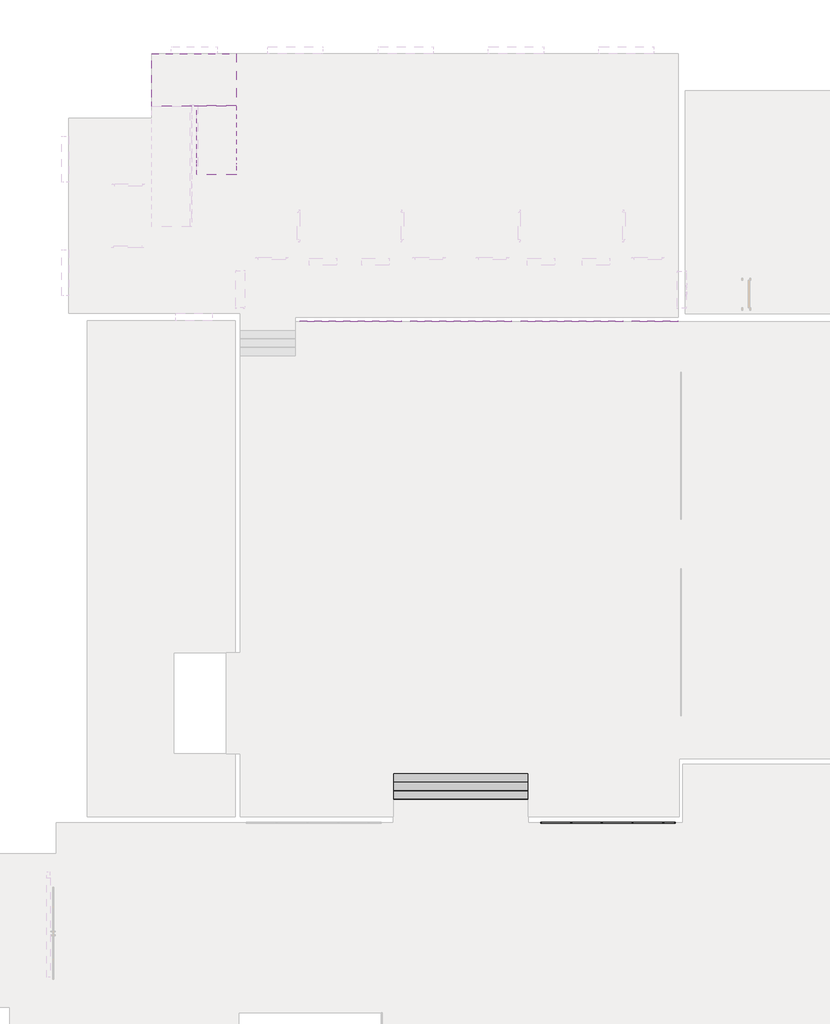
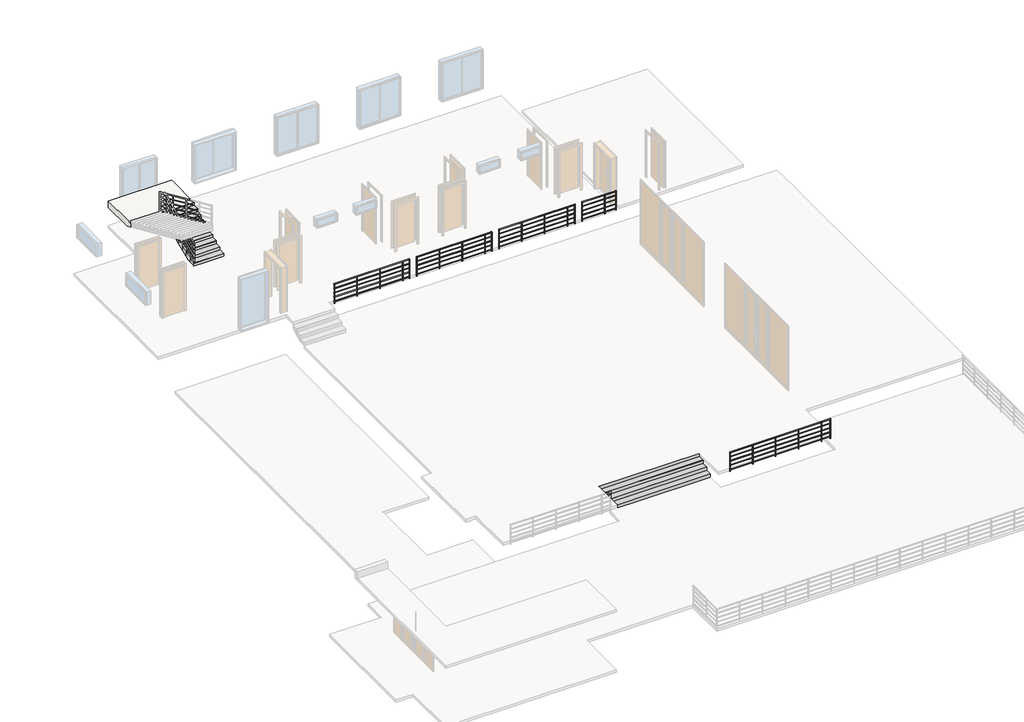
# One storey, part 5 of 5: 5 railings, 2 stair flights, 1 slab.
"""IFC4 building model written with IfcOpenShell, lengths in millimetres."""

from ifc_helpers import new_model, si_unit, point, frame, frame_2d, origin, origin_with_axes, place, context, project, spatial, polyline, circle_curve, trimmed, segment, composite_curve, outline, extrude, faceted_brep, element, save

model = new_model("IFC4")

# Units and contexts
model_context = context("Model", 3, world=origin())
ifc_project = project(units=[si_unit("LENGTHUNIT", "METRE", prefix="MILLI")], contexts=[model_context])

# Site, building, storey
site = spatial("IfcSite", under=ifc_project)
building = spatial("IfcBuilding", under=site)
storey = spatial("IfcBuildingStorey", under=building, Name="标高 1", Elevation=0.0)

# Railings
placement = place(None, origin())
element("IfcRailing", 1, ObjectType="900mm 圆管", at=placement, inside=storey, context=model_context, shape_type="SweptSolid", body=[
    extrude(outline(composite_curve([segment(trimmed(circle_curve(frame_2d((16909.1658649, 2080.0)), 20.0), [point((16889.1658649, 2080.0))], [point((16929.1658649, 2080.0))], False, "CARTESIAN"), True, "CONTINUOUS"), segment(trimmed(circle_curve(frame_2d((16909.1658649, 2080.0)), 20.0), [point((16929.1658649, 2080.0))], [point((16889.1658649, 2080.0))], False, "CARTESIAN"), True, "CONTINUOUS")], self_intersect=False)), frame((-913.2622628, 0.0, 0.0), z_axis=(1.0, 0.0, 0.0), x_axis=(0.0, 1.0, 0.0)), (0.0, 0.0, 1.0), 3300.0),
    extrude(outline(composite_curve([segment(trimmed(circle_curve(frame_2d((16909.1658649, 1885.0)), 15.0), [point((16924.1658649, 1885.0))], [point((16894.1658649, 1885.0))], False, "CARTESIAN"), True, "CONTINUOUS"), segment(trimmed(circle_curve(frame_2d((16909.1658649, 1885.0)), 15.0), [point((16894.1658649, 1885.0))], [point((16924.1658649, 1885.0))], False, "CARTESIAN"), True, "CONTINUOUS")], self_intersect=False)), frame((-913.2622628, 0.0, 0.0), z_axis=(1.0, 0.0, 0.0), x_axis=(0.0, 1.0, 0.0)), (0.0, 0.0, 1.0), 3300.0),
    extrude(outline(composite_curve([segment(trimmed(circle_curve(frame_2d((16909.1658649, 1685.0)), 15.0), [point((16924.1658649, 1685.0))], [point((16894.1658649, 1685.0))], False, "CARTESIAN"), True, "CONTINUOUS"), segment(trimmed(circle_curve(frame_2d((16909.1658649, 1685.0)), 15.0), [point((16894.1658649, 1685.0))], [point((16924.1658649, 1685.0))], False, "CARTESIAN"), True, "CONTINUOUS")], self_intersect=False)), frame((-913.2622628, 0.0, 0.0), z_axis=(1.0, 0.0, 0.0), x_axis=(0.0, 1.0, 0.0)), (0.0, 0.0, 1.0), 3300.0),
    extrude(outline(composite_curve([segment(trimmed(circle_curve(frame_2d((16909.1658649, 1485.0)), 15.0), [point((16924.1658649, 1485.0))], [point((16894.1658649, 1485.0))], False, "CARTESIAN"), True, "CONTINUOUS"), segment(trimmed(circle_curve(frame_2d((16909.1658649, 1485.0)), 15.0), [point((16894.1658649, 1485.0))], [point((16924.1658649, 1485.0))], False, "CARTESIAN"), True, "CONTINUOUS")], self_intersect=False)), frame((-913.2622628, 0.0, 0.0), z_axis=(1.0, 0.0, 0.0), x_axis=(0.0, 1.0, 0.0)), (0.0, 0.0, 1.0), 3300.0),
    extrude(outline(composite_curve([segment(trimmed(circle_curve(frame_2d((16909.1658649, 1285.0)), 15.0), [point((16924.1658649, 1285.0))], [point((16894.1658649, 1285.0))], False, "CARTESIAN"), True, "CONTINUOUS"), segment(trimmed(circle_curve(frame_2d((16909.1658649, 1285.0)), 15.0), [point((16894.1658649, 1285.0))], [point((16924.1658649, 1285.0))], False, "CARTESIAN"), True, "CONTINUOUS")], self_intersect=False)), frame((-913.2622628, 0.0, 0.0), z_axis=(1.0, 0.0, 0.0), x_axis=(0.0, 1.0, 0.0)), (0.0, 0.0, 1.0), 3300.0),
    extrude(outline(composite_curve([segment(trimmed(circle_curve(frame_2d((2086.7377372, 16909.1658649)), 12.5), [point((2086.7377372, 16921.6658649))], [point((2086.7377372, 16896.6658649))], False, "CARTESIAN"), True, "CONTINUOUS"), segment(trimmed(circle_curve(frame_2d((2086.7377372, 16909.1658649)), 12.5), [point((2086.7377372, 16896.6658649))], [point((2086.7377372, 16921.6658649))], False, "CARTESIAN"), True, "CONTINUOUS")], self_intersect=False)), frame((0.0, 0.0, 1200.0), z_axis=(0.0, 0.0, 1.0), x_axis=(1.0, 0.0, 0.0)), (0.0, 0.0, 1.0), 860.0),
    extrude(outline(composite_curve([segment(trimmed(circle_curve(frame_2d((1086.7377372, 16909.1658649)), 12.5), [point((1086.7377372, 16921.6658649))], [point((1086.7377372, 16896.6658649))], False, "CARTESIAN"), True, "CONTINUOUS"), segment(trimmed(circle_curve(frame_2d((1086.7377372, 16909.1658649)), 12.5), [point((1086.7377372, 16896.6658649))], [point((1086.7377372, 16921.6658649))], False, "CARTESIAN"), True, "CONTINUOUS")], self_intersect=False)), frame((0.0, 0.0, 1200.0), z_axis=(0.0, 0.0, 1.0), x_axis=(1.0, 0.0, 0.0)), (0.0, 0.0, 1.0), 860.0),
    extrude(outline(composite_curve([segment(trimmed(circle_curve(frame_2d((86.7377372, 16909.1658649)), 12.5), [point((86.7377372, 16921.6658649))], [point((86.7377372, 16896.6658649))], False, "CARTESIAN"), True, "CONTINUOUS"), segment(trimmed(circle_curve(frame_2d((86.7377372, 16909.1658649)), 12.5), [point((86.7377372, 16896.6658649))], [point((86.7377372, 16921.6658649))], False, "CARTESIAN"), True, "CONTINUOUS")], self_intersect=False)), frame((0.0, 0.0, 1200.0), z_axis=(0.0, 0.0, 1.0), x_axis=(1.0, 0.0, 0.0)), (0.0, 0.0, 1.0), 860.0),
    extrude(outline(composite_curve([segment(trimmed(circle_curve(frame_2d((2374.2377372, 16909.1658649)), 12.5), [point((2374.2377372, 16921.6658649))], [point((2374.2377372, 16896.6658649))], False, "CARTESIAN"), True, "CONTINUOUS"), segment(trimmed(circle_curve(frame_2d((2374.2377372, 16909.1658649)), 12.5), [point((2374.2377372, 16896.6658649))], [point((2374.2377372, 16921.6658649))], False, "CARTESIAN"), True, "CONTINUOUS")], self_intersect=False)), frame((0.0, 0.0, 1200.0), z_axis=(0.0, 0.0, 1.0), x_axis=(1.0, 0.0, 0.0)), (0.0, 0.0, 1.0), 860.0),
    extrude(outline(composite_curve([segment(trimmed(circle_curve(frame_2d((-900.7622628, 16909.1658649)), 12.5), [point((-900.7622628, 16921.6658649))], [point((-900.7622628, 16896.6658649))], False, "CARTESIAN"), True, "CONTINUOUS"), segment(trimmed(circle_curve(frame_2d((-900.7622628, 16909.1658649)), 12.5), [point((-900.7622628, 16896.6658649))], [point((-900.7622628, 16921.6658649))], False, "CARTESIAN"), True, "CONTINUOUS")], self_intersect=False)), frame((0.0, 0.0, 1200.0), z_axis=(0.0, 0.0, 1.0), x_axis=(1.0, 0.0, 0.0)), (0.0, 0.0, 1.0), 860.0),
])
element("IfcRailing", 2, ObjectType="900mm 圆管", at=placement, inside=storey, context=model_context, shape_type="SweptSolid", body=[
    extrude(outline(composite_curve([segment(trimmed(circle_curve(frame_2d((16909.1658649, 2080.0)), 20.0), [point((16889.1658649, 2080.0))], [point((16929.1658649, 2080.0))], False, "CARTESIAN"), True, "CONTINUOUS"), segment(trimmed(circle_curve(frame_2d((16909.1658649, 2080.0)), 20.0), [point((16929.1658649, 2080.0))], [point((16889.1658649, 2080.0))], False, "CARTESIAN"), True, "CONTINUOUS")], self_intersect=False)), frame((2686.7377372, 0.0, 0.0), z_axis=(1.0, 0.0, 0.0), x_axis=(0.0, 1.0, 0.0)), (0.0, 0.0, 1.0), 3300.0),
    extrude(outline(composite_curve([segment(trimmed(circle_curve(frame_2d((16909.1658649, 1885.0)), 15.0), [point((16924.1658649, 1885.0))], [point((16894.1658649, 1885.0))], False, "CARTESIAN"), True, "CONTINUOUS"), segment(trimmed(circle_curve(frame_2d((16909.1658649, 1885.0)), 15.0), [point((16894.1658649, 1885.0))], [point((16924.1658649, 1885.0))], False, "CARTESIAN"), True, "CONTINUOUS")], self_intersect=False)), frame((2686.7377372, 0.0, 0.0), z_axis=(1.0, 0.0, 0.0), x_axis=(0.0, 1.0, 0.0)), (0.0, 0.0, 1.0), 3300.0),
    extrude(outline(composite_curve([segment(trimmed(circle_curve(frame_2d((16909.1658649, 1685.0)), 15.0), [point((16924.1658649, 1685.0))], [point((16894.1658649, 1685.0))], False, "CARTESIAN"), True, "CONTINUOUS"), segment(trimmed(circle_curve(frame_2d((16909.1658649, 1685.0)), 15.0), [point((16894.1658649, 1685.0))], [point((16924.1658649, 1685.0))], False, "CARTESIAN"), True, "CONTINUOUS")], self_intersect=False)), frame((2686.7377372, 0.0, 0.0), z_axis=(1.0, 0.0, 0.0), x_axis=(0.0, 1.0, 0.0)), (0.0, 0.0, 1.0), 3300.0),
    extrude(outline(composite_curve([segment(trimmed(circle_curve(frame_2d((16909.1658649, 1485.0)), 15.0), [point((16924.1658649, 1485.0))], [point((16894.1658649, 1485.0))], False, "CARTESIAN"), True, "CONTINUOUS"), segment(trimmed(circle_curve(frame_2d((16909.1658649, 1485.0)), 15.0), [point((16894.1658649, 1485.0))], [point((16924.1658649, 1485.0))], False, "CARTESIAN"), True, "CONTINUOUS")], self_intersect=False)), frame((2686.7377372, 0.0, 0.0), z_axis=(1.0, 0.0, 0.0), x_axis=(0.0, 1.0, 0.0)), (0.0, 0.0, 1.0), 3300.0),
    extrude(outline(composite_curve([segment(trimmed(circle_curve(frame_2d((16909.1658649, 1285.0)), 15.0), [point((16924.1658649, 1285.0))], [point((16894.1658649, 1285.0))], False, "CARTESIAN"), True, "CONTINUOUS"), segment(trimmed(circle_curve(frame_2d((16909.1658649, 1285.0)), 15.0), [point((16894.1658649, 1285.0))], [point((16924.1658649, 1285.0))], False, "CARTESIAN"), True, "CONTINUOUS")], self_intersect=False)), frame((2686.7377372, 0.0, 0.0), z_axis=(1.0, 0.0, 0.0), x_axis=(0.0, 1.0, 0.0)), (0.0, 0.0, 1.0), 3300.0),
    extrude(outline(composite_curve([segment(trimmed(circle_curve(frame_2d((5686.7377372, 16909.1658649)), 12.5), [point((5686.7377372, 16921.6658649))], [point((5686.7377372, 16896.6658649))], False, "CARTESIAN"), True, "CONTINUOUS"), segment(trimmed(circle_curve(frame_2d((5686.7377372, 16909.1658649)), 12.5), [point((5686.7377372, 16896.6658649))], [point((5686.7377372, 16921.6658649))], False, "CARTESIAN"), True, "CONTINUOUS")], self_intersect=False)), frame((0.0, 0.0, 1200.0), z_axis=(0.0, 0.0, 1.0), x_axis=(1.0, 0.0, 0.0)), (0.0, 0.0, 1.0), 860.0),
    extrude(outline(composite_curve([segment(trimmed(circle_curve(frame_2d((4686.7377372, 16909.1658649)), 12.5), [point((4686.7377372, 16921.6658649))], [point((4686.7377372, 16896.6658649))], False, "CARTESIAN"), True, "CONTINUOUS"), segment(trimmed(circle_curve(frame_2d((4686.7377372, 16909.1658649)), 12.5), [point((4686.7377372, 16896.6658649))], [point((4686.7377372, 16921.6658649))], False, "CARTESIAN"), True, "CONTINUOUS")], self_intersect=False)), frame((0.0, 0.0, 1200.0), z_axis=(0.0, 0.0, 1.0), x_axis=(1.0, 0.0, 0.0)), (0.0, 0.0, 1.0), 860.0),
    extrude(outline(composite_curve([segment(trimmed(circle_curve(frame_2d((3686.7377372, 16909.1658649)), 12.5), [point((3686.7377372, 16921.6658649))], [point((3686.7377372, 16896.6658649))], False, "CARTESIAN"), True, "CONTINUOUS"), segment(trimmed(circle_curve(frame_2d((3686.7377372, 16909.1658649)), 12.5), [point((3686.7377372, 16896.6658649))], [point((3686.7377372, 16921.6658649))], False, "CARTESIAN"), True, "CONTINUOUS")], self_intersect=False)), frame((0.0, 0.0, 1200.0), z_axis=(0.0, 0.0, 1.0), x_axis=(1.0, 0.0, 0.0)), (0.0, 0.0, 1.0), 860.0),
    extrude(outline(composite_curve([segment(trimmed(circle_curve(frame_2d((5974.2377372, 16909.1658649)), 12.5), [point((5974.2377372, 16921.6658649))], [point((5974.2377372, 16896.6658649))], False, "CARTESIAN"), True, "CONTINUOUS"), segment(trimmed(circle_curve(frame_2d((5974.2377372, 16909.1658649)), 12.5), [point((5974.2377372, 16896.6658649))], [point((5974.2377372, 16921.6658649))], False, "CARTESIAN"), True, "CONTINUOUS")], self_intersect=False)), frame((0.0, 0.0, 1200.0), z_axis=(0.0, 0.0, 1.0), x_axis=(1.0, 0.0, 0.0)), (0.0, 0.0, 1.0), 860.0),
    extrude(outline(composite_curve([segment(trimmed(circle_curve(frame_2d((2699.2377372, 16909.1658649)), 12.5), [point((2699.2377372, 16921.6658649))], [point((2699.2377372, 16896.6658649))], False, "CARTESIAN"), True, "CONTINUOUS"), segment(trimmed(circle_curve(frame_2d((2699.2377372, 16909.1658649)), 12.5), [point((2699.2377372, 16896.6658649))], [point((2699.2377372, 16921.6658649))], False, "CARTESIAN"), True, "CONTINUOUS")], self_intersect=False)), frame((0.0, 0.0, 1200.0), z_axis=(0.0, 0.0, 1.0), x_axis=(1.0, 0.0, 0.0)), (0.0, 0.0, 1.0), 860.0),
])
element("IfcRailing", 3, ObjectType="900mm 圆管", at=placement, inside=storey, context=model_context, shape_type="SweptSolid", body=[
    extrude(outline(composite_curve([segment(trimmed(circle_curve(frame_2d((16909.1658649, 2080.0)), 20.0), [point((16889.1658649, 2080.0))], [point((16929.1658649, 2080.0))], False, "CARTESIAN"), True, "CONTINUOUS"), segment(trimmed(circle_curve(frame_2d((16909.1658649, 2080.0)), 20.0), [point((16929.1658649, 2080.0))], [point((16889.1658649, 2080.0))], False, "CARTESIAN"), True, "CONTINUOUS")], self_intersect=False)), frame((6286.7377372, 0.0, 0.0), z_axis=(1.0, 0.0, 0.0), x_axis=(0.0, 1.0, 0.0)), (0.0, 0.0, 1.0), 3330.0),
    extrude(outline(composite_curve([segment(trimmed(circle_curve(frame_2d((16909.1658649, 1885.0)), 15.0), [point((16924.1658649, 1885.0))], [point((16894.1658649, 1885.0))], False, "CARTESIAN"), True, "CONTINUOUS"), segment(trimmed(circle_curve(frame_2d((16909.1658649, 1885.0)), 15.0), [point((16894.1658649, 1885.0))], [point((16924.1658649, 1885.0))], False, "CARTESIAN"), True, "CONTINUOUS")], self_intersect=False)), frame((6286.7377372, 0.0, 0.0), z_axis=(1.0, 0.0, 0.0), x_axis=(0.0, 1.0, 0.0)), (0.0, 0.0, 1.0), 3330.0),
    extrude(outline(composite_curve([segment(trimmed(circle_curve(frame_2d((16909.1658649, 1685.0)), 15.0), [point((16924.1658649, 1685.0))], [point((16894.1658649, 1685.0))], False, "CARTESIAN"), True, "CONTINUOUS"), segment(trimmed(circle_curve(frame_2d((16909.1658649, 1685.0)), 15.0), [point((16894.1658649, 1685.0))], [point((16924.1658649, 1685.0))], False, "CARTESIAN"), True, "CONTINUOUS")], self_intersect=False)), frame((6286.7377372, 0.0, 0.0), z_axis=(1.0, 0.0, 0.0), x_axis=(0.0, 1.0, 0.0)), (0.0, 0.0, 1.0), 3330.0),
    extrude(outline(composite_curve([segment(trimmed(circle_curve(frame_2d((16909.1658649, 1485.0)), 15.0), [point((16924.1658649, 1485.0))], [point((16894.1658649, 1485.0))], False, "CARTESIAN"), True, "CONTINUOUS"), segment(trimmed(circle_curve(frame_2d((16909.1658649, 1485.0)), 15.0), [point((16894.1658649, 1485.0))], [point((16924.1658649, 1485.0))], False, "CARTESIAN"), True, "CONTINUOUS")], self_intersect=False)), frame((6286.7377372, 0.0, 0.0), z_axis=(1.0, 0.0, 0.0), x_axis=(0.0, 1.0, 0.0)), (0.0, 0.0, 1.0), 3330.0),
    extrude(outline(composite_curve([segment(trimmed(circle_curve(frame_2d((16909.1658649, 1285.0)), 15.0), [point((16924.1658649, 1285.0))], [point((16894.1658649, 1285.0))], False, "CARTESIAN"), True, "CONTINUOUS"), segment(trimmed(circle_curve(frame_2d((16909.1658649, 1285.0)), 15.0), [point((16894.1658649, 1285.0))], [point((16924.1658649, 1285.0))], False, "CARTESIAN"), True, "CONTINUOUS")], self_intersect=False)), frame((6286.7377372, 0.0, 0.0), z_axis=(1.0, 0.0, 0.0), x_axis=(0.0, 1.0, 0.0)), (0.0, 0.0, 1.0), 3330.0),
    extrude(outline(composite_curve([segment(trimmed(circle_curve(frame_2d((9286.7377372, 16909.1658649)), 12.5), [point((9286.7377372, 16921.6658649))], [point((9286.7377372, 16896.6658649))], False, "CARTESIAN"), True, "CONTINUOUS"), segment(trimmed(circle_curve(frame_2d((9286.7377372, 16909.1658649)), 12.5), [point((9286.7377372, 16896.6658649))], [point((9286.7377372, 16921.6658649))], False, "CARTESIAN"), True, "CONTINUOUS")], self_intersect=False)), frame((0.0, 0.0, 1200.0), z_axis=(0.0, 0.0, 1.0), x_axis=(1.0, 0.0, 0.0)), (0.0, 0.0, 1.0), 860.0),
    extrude(outline(composite_curve([segment(trimmed(circle_curve(frame_2d((8286.7377372, 16909.1658649)), 12.5), [point((8286.7377372, 16921.6658649))], [point((8286.7377372, 16896.6658649))], False, "CARTESIAN"), True, "CONTINUOUS"), segment(trimmed(circle_curve(frame_2d((8286.7377372, 16909.1658649)), 12.5), [point((8286.7377372, 16896.6658649))], [point((8286.7377372, 16921.6658649))], False, "CARTESIAN"), True, "CONTINUOUS")], self_intersect=False)), frame((0.0, 0.0, 1200.0), z_axis=(0.0, 0.0, 1.0), x_axis=(1.0, 0.0, 0.0)), (0.0, 0.0, 1.0), 860.0),
    extrude(outline(composite_curve([segment(trimmed(circle_curve(frame_2d((7286.7377372, 16909.1658649)), 12.5), [point((7286.7377372, 16921.6658649))], [point((7286.7377372, 16896.6658649))], False, "CARTESIAN"), True, "CONTINUOUS"), segment(trimmed(circle_curve(frame_2d((7286.7377372, 16909.1658649)), 12.5), [point((7286.7377372, 16896.6658649))], [point((7286.7377372, 16921.6658649))], False, "CARTESIAN"), True, "CONTINUOUS")], self_intersect=False)), frame((0.0, 0.0, 1200.0), z_axis=(0.0, 0.0, 1.0), x_axis=(1.0, 0.0, 0.0)), (0.0, 0.0, 1.0), 860.0),
    extrude(outline(composite_curve([segment(trimmed(circle_curve(frame_2d((9604.2377372, 16909.1658649)), 12.5), [point((9604.2377372, 16921.6658649))], [point((9604.2377372, 16896.6658649))], False, "CARTESIAN"), True, "CONTINUOUS"), segment(trimmed(circle_curve(frame_2d((9604.2377372, 16909.1658649)), 12.5), [point((9604.2377372, 16896.6658649))], [point((9604.2377372, 16921.6658649))], False, "CARTESIAN"), True, "CONTINUOUS")], self_intersect=False)), frame((0.0, 0.0, 1200.0), z_axis=(0.0, 0.0, 1.0), x_axis=(1.0, 0.0, 0.0)), (0.0, 0.0, 1.0), 860.0),
    extrude(outline(composite_curve([segment(trimmed(circle_curve(frame_2d((6299.2377372, 16909.1658649)), 12.5), [point((6299.2377372, 16921.6658649))], [point((6299.2377372, 16896.6658649))], False, "CARTESIAN"), True, "CONTINUOUS"), segment(trimmed(circle_curve(frame_2d((6299.2377372, 16909.1658649)), 12.5), [point((6299.2377372, 16896.6658649))], [point((6299.2377372, 16921.6658649))], False, "CARTESIAN"), True, "CONTINUOUS")], self_intersect=False)), frame((0.0, 0.0, 1200.0), z_axis=(0.0, 0.0, 1.0), x_axis=(1.0, 0.0, 0.0)), (0.0, 0.0, 1.0), 860.0),
])
element("IfcRailing", 4, ObjectType="900mm 圆管", at=placement, inside=storey, context=model_context, shape_type="SweptSolid", body=[
    extrude(outline(composite_curve([segment(trimmed(circle_curve(frame_2d((16909.1658649, 2080.0)), 20.0), [point((16889.1658649, 2080.0))], [point((16929.1658649, 2080.0))], False, "CARTESIAN"), True, "CONTINUOUS"), segment(trimmed(circle_curve(frame_2d((16909.1658649, 2080.0)), 20.0), [point((16929.1658649, 2080.0))], [point((16889.1658649, 2080.0))], False, "CARTESIAN"), True, "CONTINUOUS")], self_intersect=False)), frame((9916.7377372, 0.0, 0.0), z_axis=(1.0, 0.0, 0.0), x_axis=(0.0, 1.0, 0.0)), (0.0, 0.0, 1.0), 1500.0),
    extrude(outline(composite_curve([segment(trimmed(circle_curve(frame_2d((16909.1658649, 1885.0)), 15.0), [point((16924.1658649, 1885.0))], [point((16894.1658649, 1885.0))], False, "CARTESIAN"), True, "CONTINUOUS"), segment(trimmed(circle_curve(frame_2d((16909.1658649, 1885.0)), 15.0), [point((16894.1658649, 1885.0))], [point((16924.1658649, 1885.0))], False, "CARTESIAN"), True, "CONTINUOUS")], self_intersect=False)), frame((9916.7377372, 0.0, 0.0), z_axis=(1.0, 0.0, 0.0), x_axis=(0.0, 1.0, 0.0)), (0.0, 0.0, 1.0), 1500.0),
    extrude(outline(composite_curve([segment(trimmed(circle_curve(frame_2d((16909.1658649, 1685.0)), 15.0), [point((16924.1658649, 1685.0))], [point((16894.1658649, 1685.0))], False, "CARTESIAN"), True, "CONTINUOUS"), segment(trimmed(circle_curve(frame_2d((16909.1658649, 1685.0)), 15.0), [point((16894.1658649, 1685.0))], [point((16924.1658649, 1685.0))], False, "CARTESIAN"), True, "CONTINUOUS")], self_intersect=False)), frame((9916.7377372, 0.0, 0.0), z_axis=(1.0, 0.0, 0.0), x_axis=(0.0, 1.0, 0.0)), (0.0, 0.0, 1.0), 1500.0),
    extrude(outline(composite_curve([segment(trimmed(circle_curve(frame_2d((16909.1658649, 1485.0)), 15.0), [point((16924.1658649, 1485.0))], [point((16894.1658649, 1485.0))], False, "CARTESIAN"), True, "CONTINUOUS"), segment(trimmed(circle_curve(frame_2d((16909.1658649, 1485.0)), 15.0), [point((16894.1658649, 1485.0))], [point((16924.1658649, 1485.0))], False, "CARTESIAN"), True, "CONTINUOUS")], self_intersect=False)), frame((9916.7377372, 0.0, 0.0), z_axis=(1.0, 0.0, 0.0), x_axis=(0.0, 1.0, 0.0)), (0.0, 0.0, 1.0), 1500.0),
    extrude(outline(composite_curve([segment(trimmed(circle_curve(frame_2d((16909.1658649, 1285.0)), 15.0), [point((16924.1658649, 1285.0))], [point((16894.1658649, 1285.0))], False, "CARTESIAN"), True, "CONTINUOUS"), segment(trimmed(circle_curve(frame_2d((16909.1658649, 1285.0)), 15.0), [point((16894.1658649, 1285.0))], [point((16924.1658649, 1285.0))], False, "CARTESIAN"), True, "CONTINUOUS")], self_intersect=False)), frame((9916.7377372, 0.0, 0.0), z_axis=(1.0, 0.0, 0.0), x_axis=(0.0, 1.0, 0.0)), (0.0, 0.0, 1.0), 1500.0),
    extrude(outline(composite_curve([segment(trimmed(circle_curve(frame_2d((10916.7377372, 16909.1658649)), 12.5), [point((10916.7377372, 16921.6658649))], [point((10916.7377372, 16896.6658649))], False, "CARTESIAN"), True, "CONTINUOUS"), segment(trimmed(circle_curve(frame_2d((10916.7377372, 16909.1658649)), 12.5), [point((10916.7377372, 16896.6658649))], [point((10916.7377372, 16921.6658649))], False, "CARTESIAN"), True, "CONTINUOUS")], self_intersect=False)), frame((0.0, 0.0, 1200.0), z_axis=(0.0, 0.0, 1.0), x_axis=(1.0, 0.0, 0.0)), (0.0, 0.0, 1.0), 860.0),
    extrude(outline(composite_curve([segment(trimmed(circle_curve(frame_2d((11404.2377372, 16909.1658649)), 12.5), [point((11404.2377372, 16921.6658649))], [point((11404.2377372, 16896.6658649))], False, "CARTESIAN"), True, "CONTINUOUS"), segment(trimmed(circle_curve(frame_2d((11404.2377372, 16909.1658649)), 12.5), [point((11404.2377372, 16896.6658649))], [point((11404.2377372, 16921.6658649))], False, "CARTESIAN"), True, "CONTINUOUS")], self_intersect=False)), frame((0.0, 0.0, 1200.0), z_axis=(0.0, 0.0, 1.0), x_axis=(1.0, 0.0, 0.0)), (0.0, 0.0, 1.0), 860.0),
    extrude(outline(composite_curve([segment(trimmed(circle_curve(frame_2d((9929.2377372, 16909.1658649)), 12.5), [point((9929.2377372, 16921.6658649))], [point((9929.2377372, 16896.6658649))], False, "CARTESIAN"), True, "CONTINUOUS"), segment(trimmed(circle_curve(frame_2d((9929.2377372, 16909.1658649)), 12.5), [point((9929.2377372, 16896.6658649))], [point((9929.2377372, 16921.6658649))], False, "CARTESIAN"), True, "CONTINUOUS")], self_intersect=False)), frame((0.0, 0.0, 1200.0), z_axis=(0.0, 0.0, 1.0), x_axis=(1.0, 0.0, 0.0)), (0.0, 0.0, 1.0), 860.0),
])
element("IfcRailing", 5, ObjectType="900mm 圆管", at=placement, inside=storey, context=model_context, shape_type="SweptSolid", body=[
    extrude(outline(composite_curve([segment(trimmed(circle_curve(frame_2d((544.1658649, 1480.0)), 20.0), [point((524.1658649, 1480.0))], [point((564.1658649, 1480.0))], False, "CARTESIAN"), True, "CONTINUOUS"), segment(trimmed(circle_curve(frame_2d((544.1658649, 1480.0)), 20.0), [point((564.1658649, 1480.0))], [point((524.1658649, 1480.0))], False, "CARTESIAN"), True, "CONTINUOUS")], self_intersect=False)), frame((6936.7377372, 0.0, 0.0), z_axis=(1.0, 0.0, 0.0), x_axis=(0.0, 1.0, 0.0)), (0.0, 0.0, 1.0), 4400.0),
    extrude(outline(composite_curve([segment(trimmed(circle_curve(frame_2d((544.1658649, 1285.0)), 15.0), [point((559.1658649, 1285.0))], [point((529.1658649, 1285.0))], False, "CARTESIAN"), True, "CONTINUOUS"), segment(trimmed(circle_curve(frame_2d((544.1658649, 1285.0)), 15.0), [point((529.1658649, 1285.0))], [point((559.1658649, 1285.0))], False, "CARTESIAN"), True, "CONTINUOUS")], self_intersect=False)), frame((6936.7377372, 0.0, 0.0), z_axis=(1.0, 0.0, 0.0), x_axis=(0.0, 1.0, 0.0)), (0.0, 0.0, 1.0), 4400.0),
    extrude(outline(composite_curve([segment(trimmed(circle_curve(frame_2d((544.1658649, 1085.0)), 15.0), [point((559.1658649, 1085.0))], [point((529.1658649, 1085.0))], False, "CARTESIAN"), True, "CONTINUOUS"), segment(trimmed(circle_curve(frame_2d((544.1658649, 1085.0)), 15.0), [point((529.1658649, 1085.0))], [point((559.1658649, 1085.0))], False, "CARTESIAN"), True, "CONTINUOUS")], self_intersect=False)), frame((6936.7377372, 0.0, 0.0), z_axis=(1.0, 0.0, 0.0), x_axis=(0.0, 1.0, 0.0)), (0.0, 0.0, 1.0), 4400.0),
    extrude(outline(composite_curve([segment(trimmed(circle_curve(frame_2d((544.1658649, 885.0)), 15.0), [point((559.1658649, 885.0))], [point((529.1658649, 885.0))], False, "CARTESIAN"), True, "CONTINUOUS"), segment(trimmed(circle_curve(frame_2d((544.1658649, 885.0)), 15.0), [point((529.1658649, 885.0))], [point((559.1658649, 885.0))], False, "CARTESIAN"), True, "CONTINUOUS")], self_intersect=False)), frame((6936.7377372, 0.0, 0.0), z_axis=(1.0, 0.0, 0.0), x_axis=(0.0, 1.0, 0.0)), (0.0, 0.0, 1.0), 4400.0),
    extrude(outline(composite_curve([segment(trimmed(circle_curve(frame_2d((544.1658649, 685.0)), 15.0), [point((559.1658649, 685.0))], [point((529.1658649, 685.0))], False, "CARTESIAN"), True, "CONTINUOUS"), segment(trimmed(circle_curve(frame_2d((544.1658649, 685.0)), 15.0), [point((529.1658649, 685.0))], [point((559.1658649, 685.0))], False, "CARTESIAN"), True, "CONTINUOUS")], self_intersect=False)), frame((6936.7377372, 0.0, 0.0), z_axis=(1.0, 0.0, 0.0), x_axis=(0.0, 1.0, 0.0)), (0.0, 0.0, 1.0), 4400.0),
    extrude(outline(composite_curve([segment(trimmed(circle_curve(frame_2d((10936.7377372, 544.1658649)), 12.5), [point((10936.7377372, 556.6658649))], [point((10936.7377372, 531.6658649))], False, "CARTESIAN"), True, "CONTINUOUS"), segment(trimmed(circle_curve(frame_2d((10936.7377372, 544.1658649)), 12.5), [point((10936.7377372, 531.6658649))], [point((10936.7377372, 556.6658649))], False, "CARTESIAN"), True, "CONTINUOUS")], self_intersect=False)), frame((0.0, 0.0, 600.0), z_axis=(0.0, 0.0, 1.0), x_axis=(1.0, 0.0, 0.0)), (0.0, 0.0, 1.0), 860.0),
    extrude(outline(composite_curve([segment(trimmed(circle_curve(frame_2d((9936.7377372, 544.1658649)), 12.5), [point((9936.7377372, 556.6658649))], [point((9936.7377372, 531.6658649))], False, "CARTESIAN"), True, "CONTINUOUS"), segment(trimmed(circle_curve(frame_2d((9936.7377372, 544.1658649)), 12.5), [point((9936.7377372, 531.6658649))], [point((9936.7377372, 556.6658649))], False, "CARTESIAN"), True, "CONTINUOUS")], self_intersect=False)), frame((0.0, 0.0, 600.0), z_axis=(0.0, 0.0, 1.0), x_axis=(1.0, 0.0, 0.0)), (0.0, 0.0, 1.0), 860.0),
    extrude(outline(composite_curve([segment(trimmed(circle_curve(frame_2d((8936.7377372, 544.1658649)), 12.5), [point((8936.7377372, 556.6658649))], [point((8936.7377372, 531.6658649))], False, "CARTESIAN"), True, "CONTINUOUS"), segment(trimmed(circle_curve(frame_2d((8936.7377372, 544.1658649)), 12.5), [point((8936.7377372, 531.6658649))], [point((8936.7377372, 556.6658649))], False, "CARTESIAN"), True, "CONTINUOUS")], self_intersect=False)), frame((0.0, 0.0, 600.0), z_axis=(0.0, 0.0, 1.0), x_axis=(1.0, 0.0, 0.0)), (0.0, 0.0, 1.0), 860.0),
    extrude(outline(composite_curve([segment(trimmed(circle_curve(frame_2d((7936.7377372, 544.1658649)), 12.5), [point((7936.7377372, 556.6658649))], [point((7936.7377372, 531.6658649))], False, "CARTESIAN"), True, "CONTINUOUS"), segment(trimmed(circle_curve(frame_2d((7936.7377372, 544.1658649)), 12.5), [point((7936.7377372, 531.6658649))], [point((7936.7377372, 556.6658649))], False, "CARTESIAN"), True, "CONTINUOUS")], self_intersect=False)), frame((0.0, 0.0, 600.0), z_axis=(0.0, 0.0, 1.0), x_axis=(1.0, 0.0, 0.0)), (0.0, 0.0, 1.0), 860.0),
    extrude(outline(composite_curve([segment(trimmed(circle_curve(frame_2d((11324.2377372, 544.1658649)), 12.5), [point((11324.2377372, 556.6658649))], [point((11324.2377372, 531.6658649))], False, "CARTESIAN"), True, "CONTINUOUS"), segment(trimmed(circle_curve(frame_2d((11324.2377372, 544.1658649)), 12.5), [point((11324.2377372, 531.6658649))], [point((11324.2377372, 556.6658649))], False, "CARTESIAN"), True, "CONTINUOUS")], self_intersect=False)), frame((0.0, 0.0, 600.0), z_axis=(0.0, 0.0, 1.0), x_axis=(1.0, 0.0, 0.0)), (0.0, 0.0, 1.0), 860.0),
    extrude(outline(composite_curve([segment(trimmed(circle_curve(frame_2d((6949.2377372, 544.1658649)), 12.5), [point((6949.2377372, 556.6658649))], [point((6949.2377372, 531.6658649))], False, "CARTESIAN"), True, "CONTINUOUS"), segment(trimmed(circle_curve(frame_2d((6949.2377372, 544.1658649)), 12.5), [point((6949.2377372, 531.6658649))], [point((6949.2377372, 556.6658649))], False, "CARTESIAN"), True, "CONTINUOUS")], self_intersect=False)), frame((0.0, 0.0, 600.0), z_axis=(0.0, 0.0, 1.0), x_axis=(1.0, 0.0, 0.0)), (0.0, 0.0, 1.0), 860.0),
])

# Slab
element("IfcSlab", 6, ObjectType="300mm 厚度", at=placement, inside=storey, context=model_context, shape_type="Brep", body=[
    faceted_brep([(-4283.2622628, 23924.1658649, 2325.0), (-4283.2622628, 23936.6658649, 2325.0), (-2983.2622628, 23936.6658649, 2325.0), (-2983.2622628, 25629.1658649, 2325.0), (-5743.2622628, 25629.1658649, 2325.0), (-5743.2622628, 24215.7039103, 2325.0), (-5743.2622628, 23924.1658649, 2325.0), (-5743.2622628, 23911.6658649, 2325.0), (-4443.2622628, 23911.6658649, 2325.0), (-4443.2622628, 23924.1658649, 2325.0), (-4283.2622628, 23936.6658649, 2200.0), (-4283.2622628, 23936.6658649, 2025.0), (-2983.2622628, 23936.6658649, 2025.0), (-2983.2622628, 23936.6658649, 2200.0), (-2983.2622628, 25629.1658649, 2025.0), (-5743.2622628, 25629.1658649, 2025.0), (-5743.2622628, 24215.7039103, 2025.0), (-5743.2622628, 23924.1658649, 2155.1509131), (-5743.2622628, 23911.6658649, 2160.7312703), (-4443.2622628, 23911.6658649, 2160.7312703), (-4443.2622628, 23924.1658649, 2155.1509131), (-4443.2622628, 23924.1658649, 2025.0), (-4283.2622628, 23924.1658649, 2025.0), (-4443.2622628, 24215.7039103, 2025.0)], [[[0, 1, 2, 3, 4, 5, 6, 7, 8, 9]], [[2, 1, 10, 11, 12, 13]], [[3, 2, 13, 12, 14]], [[4, 3, 14, 15]], [[4, 15, 16, 17, 6, 5]], [[8, 7, 18, 19]], [[0, 9, 20, 21, 22]], [[21, 23, 16, 15, 14, 12, 11, 22]], [[23, 21, 20]], [[16, 23, 20, 19, 18, 17]], [[1, 0, 22, 11, 10]], [[7, 6, 17, 18]], [[9, 8, 19, 20]]]),
])

# Stair flights
element("IfcStairFlight", 7, ObjectType="150mm 结构深度", at=placement, inside=storey, context=model_context, shape_type="SolidModel", body=[
    faceted_brep([(-4283.2622628, 21976.6658649, 1325.0), (-4283.2622628, 21696.6658649, 1325.0), (-2983.2622628, 21696.6658649, 1325.0), (-2983.2622628, 21976.6658649, 1325.0), (-4283.2622628, 21976.6658649, 1200.0), (-4283.2622628, 21696.6658649, 1200.0), (-2983.2622628, 21696.6658649, 1200.0), (-2983.2622628, 21976.6658649, 1200.0), (-4283.2622628, 22256.6658649, 1450.0), (-4283.2622628, 21976.6658649, 1450.0), (-2983.2622628, 21976.6658649, 1450.0), (-2983.2622628, 22256.6658649, 1450.0), (-4283.2622628, 22256.6658649, 1285.7312703), (-4283.2622628, 22064.6278194, 1200.0), (-2983.2622628, 22064.6278194, 1200.0), (-2983.2622628, 22256.6658649, 1285.7312703), (-4283.2622628, 22536.6658649, 1575.0), (-4283.2622628, 22256.6658649, 1575.0), (-2983.2622628, 22256.6658649, 1575.0), (-2983.2622628, 22536.6658649, 1575.0), (-4283.2622628, 22536.6658649, 1410.7312703), (-2983.2622628, 22536.6658649, 1410.7312703), (-4283.2622628, 22816.6658649, 1700.0), (-4283.2622628, 22536.6658649, 1700.0), (-2983.2622628, 22536.6658649, 1700.0), (-2983.2622628, 22816.6658649, 1700.0), (-4283.2622628, 22816.6658649, 1535.7312703), (-2983.2622628, 22816.6658649, 1535.7312703), (-4283.2622628, 23096.6658649, 1825.0), (-4283.2622628, 22816.6658649, 1825.0), (-2983.2622628, 22816.6658649, 1825.0), (-2983.2622628, 23096.6658649, 1825.0), (-4283.2622628, 23096.6658649, 1660.7312703), (-2983.2622628, 23096.6658649, 1660.7312703), (-4283.2622628, 23376.6658649, 1950.0), (-4283.2622628, 23096.6658649, 1950.0), (-2983.2622628, 23096.6658649, 1950.0), (-2983.2622628, 23376.6658649, 1950.0), (-4283.2622628, 23376.6658649, 1785.7312703), (-2983.2622628, 23376.6658649, 1785.7312703), (-4283.2622628, 23656.6658649, 2075.0), (-4283.2622628, 23376.6658649, 2075.0), (-2983.2622628, 23376.6658649, 2075.0), (-2983.2622628, 23656.6658649, 2075.0), (-4283.2622628, 23656.6658649, 1910.7312703), (-2983.2622628, 23656.6658649, 1910.7312703), (-4283.2622628, 23656.6658649, 2200.0), (-2983.2622628, 23656.6658649, 2200.0), (-2983.2622628, 23912.6278194, 2200.0), (-2983.2622628, 23936.6658649, 2200.0), (-4283.2622628, 23936.6658649, 2200.0), (-4283.2622628, 23924.1658649, 2200.0), (-4283.2622628, 23912.6278194, 2200.0), (-4283.2622628, 23936.6658649, 2025.0), (-4283.2622628, 23924.1658649, 2025.0), (-4283.2622628, 23912.6278194, 2025.0), (-2983.2622628, 23912.6278194, 2025.0), (-2983.2622628, 23936.6658649, 2025.0)], [[[0, 1, 2, 3]], [[1, 0, 4, 5]], [[2, 1, 5, 6]], [[3, 2, 6, 7]], [[8, 9, 10, 11]], [[4, 0, 9, 8, 12, 13]], [[0, 3, 10, 9]], [[3, 7, 14, 15, 11, 10]], [[16, 17, 18, 19]], [[17, 16, 20, 12, 8]], [[8, 11, 18, 17]], [[19, 18, 11, 15, 21]], [[22, 23, 24, 25]], [[23, 22, 26, 20, 16]], [[16, 19, 24, 23]], [[25, 24, 19, 21, 27]], [[28, 29, 30, 31]], [[29, 28, 32, 26, 22]], [[22, 25, 30, 29]], [[31, 30, 25, 27, 33]], [[34, 35, 36, 37]], [[35, 34, 38, 32, 28]], [[28, 31, 36, 35]], [[37, 36, 31, 33, 39]], [[40, 41, 42, 43]], [[41, 40, 44, 38, 34]], [[34, 37, 42, 41]], [[43, 42, 37, 39, 45]], [[46, 47, 48, 49, 50, 51, 52]], [[40, 46, 52, 51, 50, 53, 54, 55, 44]], [[40, 43, 47, 46]], [[47, 43, 45, 56, 57, 49, 48]], [[50, 49, 57, 53]], [[5, 4, 13, 14, 7, 6]], [[55, 56, 45, 39, 33, 27, 21, 15, 14, 13, 12, 20, 26, 32, 38, 44]], [[56, 55, 54, 53, 57]]]),
    extrude(outline(polyline([(-2983.2622628, 21696.6658649), (-2983.2622628, 21684.1658649), (-4283.2622628, 21684.1658649), (-4283.2622628, 21696.6658649), (-2983.2622628, 21696.6658649)])), frame((0.0, 0.0, 1200.0), z_axis=(0.0, 0.0, 1.0), x_axis=(1.0, 0.0, 0.0)), (0.0, 0.0, 1.0), 125.0),
    extrude(outline(polyline([(-2983.2622628, 21976.6658649), (-2983.2622628, 21964.1658649), (-4283.2622628, 21964.1658649), (-4283.2622628, 21976.6658649), (-2983.2622628, 21976.6658649)])), frame((0.0, 0.0, 1325.0), z_axis=(0.0, 0.0, 1.0), x_axis=(1.0, 0.0, 0.0)), (0.0, 0.0, 1.0), 125.0),
    extrude(outline(polyline([(-2983.2622628, 22256.6658649), (-2983.2622628, 22244.1658649), (-4283.2622628, 22244.1658649), (-4283.2622628, 22256.6658649), (-2983.2622628, 22256.6658649)])), frame((0.0, 0.0, 1450.0), z_axis=(0.0, 0.0, 1.0), x_axis=(1.0, 0.0, 0.0)), (0.0, 0.0, 1.0), 125.0),
    extrude(outline(polyline([(-2983.2622628, 22536.6658649), (-2983.2622628, 22524.1658649), (-4283.2622628, 22524.1658649), (-4283.2622628, 22536.6658649), (-2983.2622628, 22536.6658649)])), frame((0.0, 0.0, 1575.0), z_axis=(0.0, 0.0, 1.0), x_axis=(1.0, 0.0, 0.0)), (0.0, 0.0, 1.0), 125.0),
    extrude(outline(polyline([(-2983.2622628, 22816.6658649), (-2983.2622628, 22804.1658649), (-4283.2622628, 22804.1658649), (-4283.2622628, 22816.6658649), (-2983.2622628, 22816.6658649)])), frame((0.0, 0.0, 1700.0), z_axis=(0.0, 0.0, 1.0), x_axis=(1.0, 0.0, 0.0)), (0.0, 0.0, 1.0), 125.0),
    extrude(outline(polyline([(-2983.2622628, 23096.6658649), (-2983.2622628, 23084.1658649), (-4283.2622628, 23084.1658649), (-4283.2622628, 23096.6658649), (-2983.2622628, 23096.6658649)])), frame((0.0, 0.0, 1825.0), z_axis=(0.0, 0.0, 1.0), x_axis=(1.0, 0.0, 0.0)), (0.0, 0.0, 1.0), 125.0),
    extrude(outline(polyline([(-2983.2622628, 23376.6658649), (-2983.2622628, 23364.1658649), (-4283.2622628, 23364.1658649), (-4283.2622628, 23376.6658649), (-2983.2622628, 23376.6658649)])), frame((0.0, 0.0, 1950.0), z_axis=(0.0, 0.0, 1.0), x_axis=(1.0, 0.0, 0.0)), (0.0, 0.0, 1.0), 125.0),
    extrude(outline(polyline([(-2983.2622628, 23656.6658649), (-2983.2622628, 23644.1658649), (-4283.2622628, 23644.1658649), (-4283.2622628, 23656.6658649), (-2983.2622628, 23656.6658649)])), frame((0.0, 0.0, 2075.0), z_axis=(0.0, 0.0, 1.0), x_axis=(1.0, 0.0, 0.0)), (0.0, 0.0, 1.0), 125.0),
    extrude(outline(polyline([(-2983.2622628, 23936.6658649), (-2983.2622628, 23924.1658649), (-4283.2622628, 23924.1658649), (-4283.2622628, 23936.6658649), (-2983.2622628, 23936.6658649)])), frame((0.0, 0.0, 2200.0), z_axis=(0.0, 0.0, 1.0), x_axis=(1.0, 0.0, 0.0)), (0.0, 0.0, 1.0), 125.0),
])
element("IfcStairFlight", 8, ObjectType="150mm 结构深度", at=placement, inside=storey, context=model_context, shape_type="SolidModel", body=[
    faceted_brep([(2136.7377372, 1611.6658649, 150.0), (2136.7377372, 1331.6658649, 150.0), (6536.7377372, 1331.6658649, 150.0), (6536.7377372, 1611.6658649, 150.0), (2136.7377372, 1611.6658649, 0.0), (2136.7377372, 1331.6658649, 0.0), (6536.7377372, 1331.6658649, 0.0), (6536.7377372, 1611.6658649, 0.0), (2136.7377372, 1891.6658649, 300.0), (2136.7377372, 1611.6658649, 300.0), (6536.7377372, 1611.6658649, 300.0), (6536.7377372, 1891.6658649, 300.0), (2136.7377372, 1891.6658649, 129.831641), (2136.7377372, 1649.3134684, 0.0), (6536.7377372, 1649.3134684, 0.0), (6536.7377372, 1891.6658649, 129.831641), (2136.7377372, 2171.6658649, 450.0), (2136.7377372, 1891.6658649, 450.0), (6536.7377372, 1891.6658649, 450.0), (6536.7377372, 2171.6658649, 450.0), (2136.7377372, 2171.6658649, 279.831641), (6536.7377372, 2171.6658649, 279.831641)], [[[0, 1, 2, 3]], [[1, 0, 4, 5]], [[2, 1, 5, 6]], [[3, 2, 6, 7]], [[8, 9, 10, 11]], [[4, 0, 9, 8, 12, 13]], [[0, 3, 10, 9]], [[3, 7, 14, 15, 11, 10]], [[16, 17, 18, 19]], [[17, 16, 20, 12, 8]], [[8, 11, 18, 17]], [[19, 18, 11, 15, 21]], [[16, 19, 21, 20]], [[5, 4, 13, 14, 7, 6]], [[14, 13, 12, 20, 21, 15]]]),
    extrude(outline(polyline([(6536.7377372, 1331.6658649), (6536.7377372, 1319.1658649), (2136.7377372, 1319.1658649), (2136.7377372, 1331.6658649), (6536.7377372, 1331.6658649)])), origin_with_axes(), (0.0, 0.0, 1.0), 150.0),
    extrude(outline(polyline([(6536.7377372, 1611.6658649), (6536.7377372, 1599.1658649), (2136.7377372, 1599.1658649), (2136.7377372, 1611.6658649), (6536.7377372, 1611.6658649)])), frame((0.0, 0.0, 150.0), z_axis=(0.0, 0.0, 1.0), x_axis=(1.0, 0.0, 0.0)), (0.0, 0.0, 1.0), 150.0),
    extrude(outline(polyline([(6536.7377372, 1891.6658649), (6536.7377372, 1879.1658649), (2136.7377372, 1879.1658649), (2136.7377372, 1891.6658649), (6536.7377372, 1891.6658649)])), frame((0.0, 0.0, 300.0), z_axis=(0.0, 0.0, 1.0), x_axis=(1.0, 0.0, 0.0)), (0.0, 0.0, 1.0), 150.0),
    extrude(outline(polyline([(6536.7377372, 2171.6658649), (6536.7377372, 2159.1658649), (2136.7377372, 2159.1658649), (2136.7377372, 2171.6658649), (6536.7377372, 2171.6658649)])), frame((0.0, 0.0, 450.0), z_axis=(0.0, 0.0, 1.0), x_axis=(1.0, 0.0, 0.0)), (0.0, 0.0, 1.0), 150.0),
])

save(model, "model.ifc")
